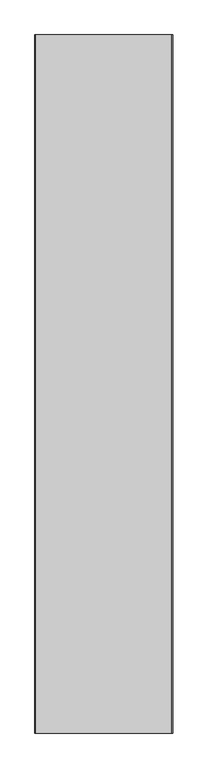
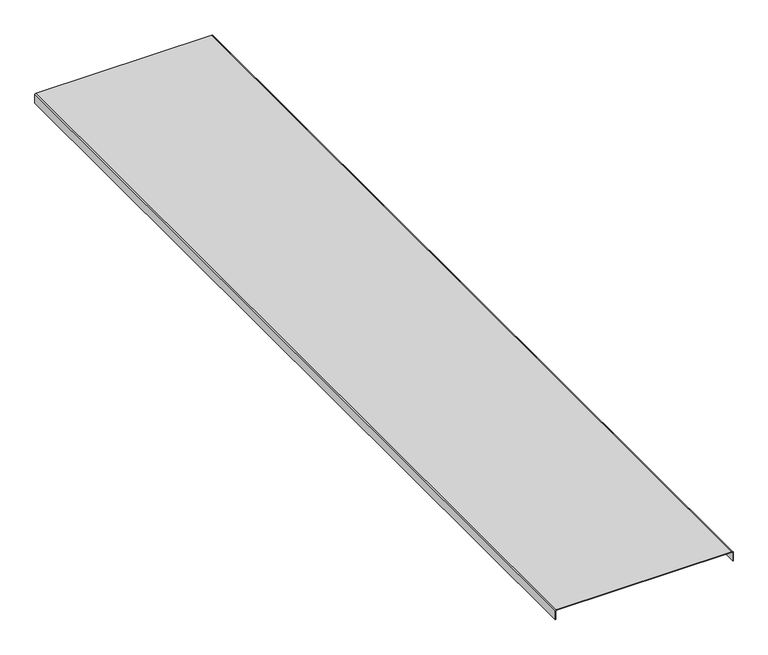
"""IFC4 building model written with IfcOpenShell, lengths in millimetres: proxy geometry, Cable_Tray_Cover_CT_Basorcanal : Basorcanal CT 100X300 (cover)."""

from ifc_helpers import new_model, si_unit, point, frame, frame_2d, origin, place, context, project, spatial, polyline, circle_curve, trimmed, segment, composite_curve, outline, extrude, source, transform, mapped, element, save


def generic_models_76276167(model_context):
    return source(origin(), model_context, "Body", "SweptSolid", [
        extrude(outline(composite_curve([segment(trimmed(circle_curve(frame_2d((-1.0, -149.0)), 1.0), [point((-1.0, -150.0))], [point((0.0, -149.0))], True, "CARTESIAN"), True, "CONTINUOUS"), segment(polyline([(0.0, -149.0), (0.0, 149.0)]), True, "CONTINUOUS"), segment(trimmed(circle_curve(frame_2d((-1.0, 149.0)), 1.0), [point((0.0, 149.0))], [point((-1.0, 150.0))], True, "CARTESIAN"), True, "CONTINUOUS"), segment(polyline([(-1.0, 150.0), (-16.0, 150.0), (-16.0, 151.0), (-1.0, 151.0)]), True, "CONTINUOUS"), segment(trimmed(circle_curve(frame_2d((-1.0, 149.0)), 2.0), [point((-1.0, 151.0))], [point((1.0, 149.0))], False, "CARTESIAN"), True, "CONTINUOUS"), segment(polyline([(1.0, 149.0), (1.0, -149.0)]), True, "CONTINUOUS"), segment(trimmed(circle_curve(frame_2d((-1.0, -149.0)), 2.0), [point((1.0, -149.0))], [point((-1.0, -151.0))], False, "CARTESIAN"), True, "CONTINUOUS"), segment(polyline([(-1.0, -151.0), (-16.0, -151.0), (-16.0, -150.0), (-1.0, -150.0)]), True, "CONTINUOUS")], self_intersect=False)), frame((0.0, 0.0, 0.0), z_axis=(0.0, 1.0, 0.0), x_axis=(0.0, 0.0, 1.0)), (0.0, 0.0, 1.0), 1529.5),
    ])


if __name__ == "__main__":
    model = new_model("IFC4")
    model_context = context("Model", 3, world=origin())
    ifc_project = project(units=[si_unit("LENGTHUNIT", "METRE", prefix="MILLI")], contexts=[model_context])
    site = spatial("IfcSite", under=ifc_project)
    building = spatial("IfcBuilding", under=site)
    placement = place(None, origin())
    generic_models_shape = generic_models_76276167(model_context)
    element("IfcBuildingElementProxy", 1, Name="Cable_Tray_Cover_CT_Basorcanal : Basorcanal CT 100X300 (cover)", ObjectType="Cable_Tray_Cover_CT_Basorcanal : Basorcanal CT 100X300 (cover)", at=placement, inside=building, context=model_context, shape_type="MappedRepresentation", body=[
        mapped(generic_models_shape, transform((0.0, 0.0, 0.0), x_axis=(1.0, 0.0, 0.0), y_axis=(0.0, 1.0, 0.0), z_axis=(0.0, 0.0, 1.0))),
    ])
    save(model, "model.ifc")
